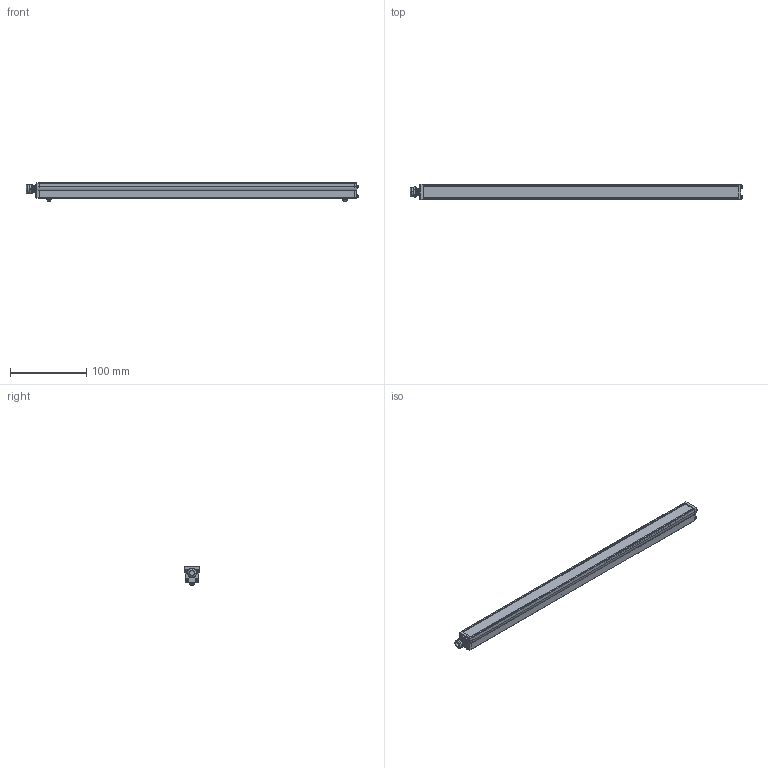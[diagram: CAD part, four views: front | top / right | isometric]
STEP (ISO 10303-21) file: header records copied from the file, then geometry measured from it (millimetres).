
FILE_DESCRIPTION (( 'STEP AP214' ), '1' );
FILE_NAME ('AL126 _NONSEALED__AL12616.stp', '2021-04-29T14:25:05', ( '' ), ( '' ), 'SwSTEP 2.0', 'SolidWorks 2018', '' );
FILE_SCHEMA (( 'AUTOMOTIVE_DESIGN' ));
Length unit declared in the file: inch
Products named in the file (15): 10mm Ai; AL126 _NONSEALED__AL12616; 090876; 10mm Swish_Default<As Machined>; 090875; 091064_Model_Dome Fittings_Thread Type and Size(Dome)_M10 x 1.5_Hazardous Location-Explosive Proof(ATEX and EExe Versions)_No_; BH-M4x6; 091052 (116 126); 10mm Advanced illumination; 093469_093469; 10mm Label (116 126)_Default<As Machined>; 093474_093474; HN-M4_90592A016; 090877-XX_090877-16; 090889-XX_090889-16
Assembly tree (24 placements, depth 3):
  AL126 _NONSEALED__AL12616
    090889-XX_090889-16
    090877-XX_090877-16
    090875
    090876
    093474_093474  x8
    093469_093469  x2
    091064_Model_Dome Fittings_Thread Type and Size(Dome)_M10 x 1.5_Hazardous Location-Explosive Proof(ATEX and EExe Versions)_No_
    HN-M4_90592A016  x2
    BH-M4x6  x2
    091052 (116 126)
      10mm Label (116 126)_Default<As Machined>
      10mm Ai
      10mm Swish_Default<As Machined>
      10mm Advanced illumination
Bounding box: 435.53 x 20.02 x 24.1 mm (x, y, z)
Volume: 58799.2 mm3; surface area: 84366.7 mm2
Topology: 48 solids, 48 shells, 1877 faces, 4840 edges, 3010 vertices
Faces by surface type: cylinder 934, plane 401, cone 362, bspline 120, torus 60
Entity records: 30293 total; most frequent: CARTESIAN_POINT 10456, ORIENTED_EDGE 4076, DIRECTION 3580, EDGE_CURVE 2038, VERTEX_POINT 1298, AXIS2_PLACEMENT_3D 1276, LINE 1028, VECTOR 1028
